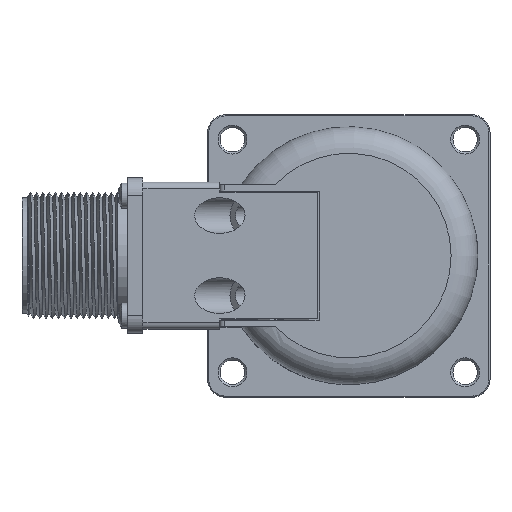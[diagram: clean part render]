
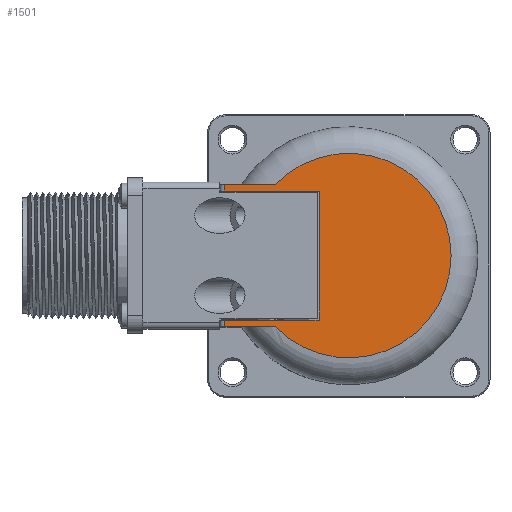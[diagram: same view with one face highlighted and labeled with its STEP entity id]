
A CAD part, top view. The second image highlights one B-rep face of the part: STEP entity #1501.
In plain terms, the highlighted planar face has unit normal (0, 0, 1).
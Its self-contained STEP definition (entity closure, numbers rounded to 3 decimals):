
#1501 = ADVANCED_FACE( '', ( #3385 ), #3386, .T. );
#3385 = FACE_OUTER_BOUND( '', #14381, .T. );
#3386 = PLANE( '', #14382 );
#14381 = EDGE_LOOP( '', ( #22674, #22675, #22676, #22677, #22678, #22679, #22680, #22681 ) );
#14382 = AXIS2_PLACEMENT_3D( '', #22682, #22683, #22684 );
#22674 = ORIENTED_EDGE( '', *, *, #24868, .T. );
#22675 = ORIENTED_EDGE( '', *, *, #26130, .T. );
#22676 = ORIENTED_EDGE( '', *, *, #25626, .T. );
#22677 = ORIENTED_EDGE( '', *, *, #25279, .T. );
#22678 = ORIENTED_EDGE( '', *, *, #26126, .F. );
#22679 = ORIENTED_EDGE( '', *, *, #25783, .F. );
#22680 = ORIENTED_EDGE( '', *, *, #25823, .T. );
#22681 = ORIENTED_EDGE( '', *, *, #25837, .T. );
#22682 = CARTESIAN_POINT( '', ( -29., 29., 49.9 ) );
#22683 = DIRECTION( '', ( 0., 0., 1. ) );
#22684 = DIRECTION( '', ( 0., -1., 0. ) );
#24868 = EDGE_CURVE( '', #27167, #27171, #27173, .T. );
#25279 = EDGE_CURVE( '', #27873, #27871, #27874, .T. );
#25626 = EDGE_CURVE( '', #28397, #27873, #28399, .T. );
#25783 = EDGE_CURVE( '', #28621, #28623, #28624, .T. );
#25823 = EDGE_CURVE( '', #28621, #28676, #28678, .T. );
#25837 = EDGE_CURVE( '', #28676, #27167, #28696, .T. );
#26126 = EDGE_CURVE( '', #28623, #27871, #29075, .T. );
#26130 = EDGE_CURVE( '', #27171, #28397, #29079, .T. );
#27167 = VERTEX_POINT( '', #32190 );
#27171 = VERTEX_POINT( '', #32206 );
#27173 = CIRCLE( '', #32220, 23. );
#27871 = VERTEX_POINT( '', #33790 );
#27873 = VERTEX_POINT( '', #33793 );
#27874 = LINE( '', #33794, #33795 );
#28397 = VERTEX_POINT( '', #35522 );
#28399 = LINE( '', #35524, #35525 );
#28621 = VERTEX_POINT( '', #36178 );
#28623 = VERTEX_POINT( '', #36180 );
#28624 = LINE( '', #36181, #36182 );
#28676 = VERTEX_POINT( '', #36287 );
#28678 = LINE( '', #36289, #36290 );
#28696 = LINE( '', #36315, #36316 );
#29075 = LINE( '', #37460, #37461 );
#29079 = LINE( '', #37466, #37467 );
#32190 = CARTESIAN_POINT( '', ( -16.523, -16., 49.9 ) );
#32206 = CARTESIAN_POINT( '', ( -16.523, 16., 49.9 ) );
#32220 = AXIS2_PLACEMENT_3D( '', #39560, #39561, #39562 );
#33790 = CARTESIAN_POINT( '', ( -6.7, 14.5, 49.9 ) );
#33793 = CARTESIAN_POINT( '', ( -28., 14.5, 49.9 ) );
#33794 = CARTESIAN_POINT( '', ( -29., 14.5, 49.9 ) );
#33795 = VECTOR( '', #40012, 1000. );
#35522 = CARTESIAN_POINT( '', ( -28., 16., 49.9 ) );
#35524 = CARTESIAN_POINT( '', ( -28., 14.5, 49.9 ) );
#35525 = VECTOR( '', #40385, 1000. );
#36178 = CARTESIAN_POINT( '', ( -28., -14.5, 49.9 ) );
#36180 = CARTESIAN_POINT( '', ( -6.7, -14.5, 49.9 ) );
#36181 = CARTESIAN_POINT( '', ( -29., -14.5, 49.9 ) );
#36182 = VECTOR( '', #40581, 1000. );
#36287 = CARTESIAN_POINT( '', ( -28., -16., 49.9 ) );
#36289 = CARTESIAN_POINT( '', ( -28., -16., 49.9 ) );
#36290 = VECTOR( '', #40627, 1000. );
#36315 = CARTESIAN_POINT( '', ( -24.187, -16., 49.9 ) );
#36316 = VECTOR( '', #40638, 1000. );
#37460 = CARTESIAN_POINT( '', ( -6.7, -14.5, 49.9 ) );
#37461 = VECTOR( '', #40902, 1000. );
#37466 = CARTESIAN_POINT( '', ( -29., 16., 49.9 ) );
#37467 = VECTOR( '', #40904, 1000. );
#39560 = CARTESIAN_POINT( '', ( 0., 0., 49.9 ) );
#39561 = DIRECTION( '', ( 0., 0., 1. ) );
#39562 = DIRECTION( '', ( 0., -1., 0. ) );
#40012 = DIRECTION( '', ( 1., 0., 0. ) );
#40385 = DIRECTION( '', ( 0., -1., 0. ) );
#40581 = DIRECTION( '', ( 1., 0., 0. ) );
#40627 = DIRECTION( '', ( 0., -1., 0. ) );
#40638 = DIRECTION( '', ( 1., 0., 0. ) );
#40902 = DIRECTION( '', ( 0., 1., 0. ) );
#40904 = DIRECTION( '', ( -1., 0., 0. ) );
